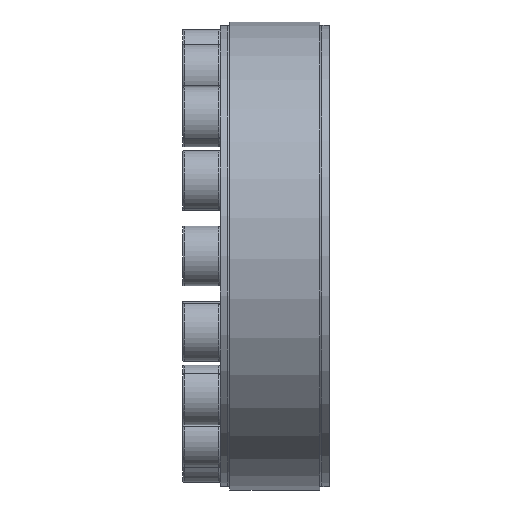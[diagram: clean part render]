
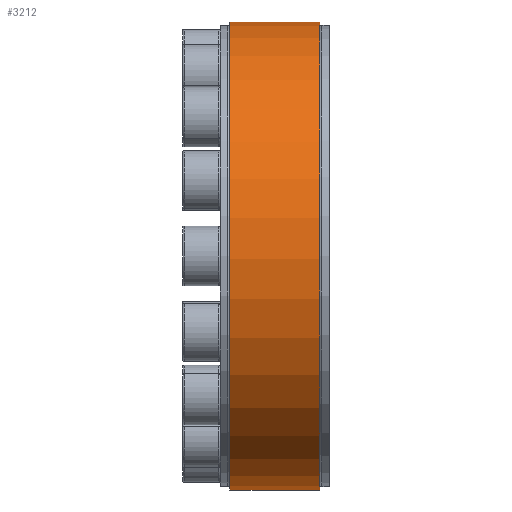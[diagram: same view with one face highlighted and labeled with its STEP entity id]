
A CAD part, front view. The second image highlights one B-rep face of the part: STEP entity #3212.
In plain terms, the highlighted cylindrical face has radius 62.5 mm (diameter 125 mm), a partial arc.
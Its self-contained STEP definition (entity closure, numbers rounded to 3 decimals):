
#60 = CIRCLE ( 'NONE', #4519, 62.5 ) ;
#86 = VERTEX_POINT ( 'NONE', #12102 ) ;
#169 = ORIENTED_EDGE ( 'NONE', *, *, #9802, .F. ) ;
#190 = DIRECTION ( 'NONE',  ( -1., 0., 0. ) ) ;
#557 = AXIS2_PLACEMENT_3D ( 'NONE', #9708, #4158, #10655 ) ;
#740 = AXIS2_PLACEMENT_3D ( 'NONE', #7362, #4642, #6482 ) ;
#1138 = VECTOR ( 'NONE', #4286, 1000. ) ;
#2587 = EDGE_LOOP ( 'NONE', ( #9756, #8421, #5045, #169 ) ) ;
#3212 = ADVANCED_FACE ( 'NONE', ( #4978 ), #7111, .T. ) ;
#3428 = CARTESIAN_POINT ( 'NONE',  ( 12., -1.5, 62.482 ) ) ;
#4158 = DIRECTION ( 'NONE',  ( -1., 0., 0. ) ) ;
#4286 = DIRECTION ( 'NONE',  ( 1., 0., 0. ) ) ;
#4331 = EDGE_CURVE ( 'NONE', #5465, #5267, #4808, .T. ) ;
#4503 = VECTOR ( 'NONE', #8318, 1000. ) ;
#4519 = AXIS2_PLACEMENT_3D ( 'NONE', #5777, #190, #6679 ) ;
#4642 = DIRECTION ( 'NONE',  ( -1., 0., 0. ) ) ;
#4808 = LINE ( 'NONE', #7376, #4503 ) ;
#4978 = FACE_OUTER_BOUND ( 'NONE', #2587, .T. ) ;
#5045 = ORIENTED_EDGE ( 'NONE', *, *, #5511, .F. ) ;
#5267 = VERTEX_POINT ( 'NONE', #10391 ) ;
#5465 = VERTEX_POINT ( 'NONE', #10680 ) ;
#5511 = EDGE_CURVE ( 'NONE', #86, #9533, #5792, .T. ) ;
#5777 = CARTESIAN_POINT ( 'NONE',  ( -12., 0., 0. ) ) ;
#5792 = LINE ( 'NONE', #9847, #1138 ) ;
#6482 = DIRECTION ( 'NONE',  ( 0., 0., 1. ) ) ;
#6679 = DIRECTION ( 'NONE',  ( 0., 0., 1. ) ) ;
#7111 = CYLINDRICAL_SURFACE ( 'NONE', #740, 62.5 ) ;
#7362 = CARTESIAN_POINT ( 'NONE',  ( -14.598, 0., 0. ) ) ;
#7376 = CARTESIAN_POINT ( 'NONE',  ( -14.598, 1.5, 62.482 ) ) ;
#8318 = DIRECTION ( 'NONE',  ( -1., 0., 0. ) ) ;
#8421 = ORIENTED_EDGE ( 'NONE', *, *, #9944, .T. ) ;
#9533 = VERTEX_POINT ( 'NONE', #3428 ) ;
#9708 = CARTESIAN_POINT ( 'NONE',  ( 12., 0., 0. ) ) ;
#9756 = ORIENTED_EDGE ( 'NONE', *, *, #4331, .F. ) ;
#9802 = EDGE_CURVE ( 'NONE', #5267, #86, #60, .T. ) ;
#9847 = CARTESIAN_POINT ( 'NONE',  ( -14.598, -1.5, 62.482 ) ) ;
#9944 = EDGE_CURVE ( 'NONE', #5465, #9533, #10973, .T. ) ;
#10391 = CARTESIAN_POINT ( 'NONE',  ( -12., 1.5, 62.482 ) ) ;
#10655 = DIRECTION ( 'NONE',  ( 0., 0., 1. ) ) ;
#10680 = CARTESIAN_POINT ( 'NONE',  ( 12., 1.5, 62.482 ) ) ;
#10973 = CIRCLE ( 'NONE', #557, 62.5 ) ;
#12102 = CARTESIAN_POINT ( 'NONE',  ( -12., -1.5, 62.482 ) ) ;
